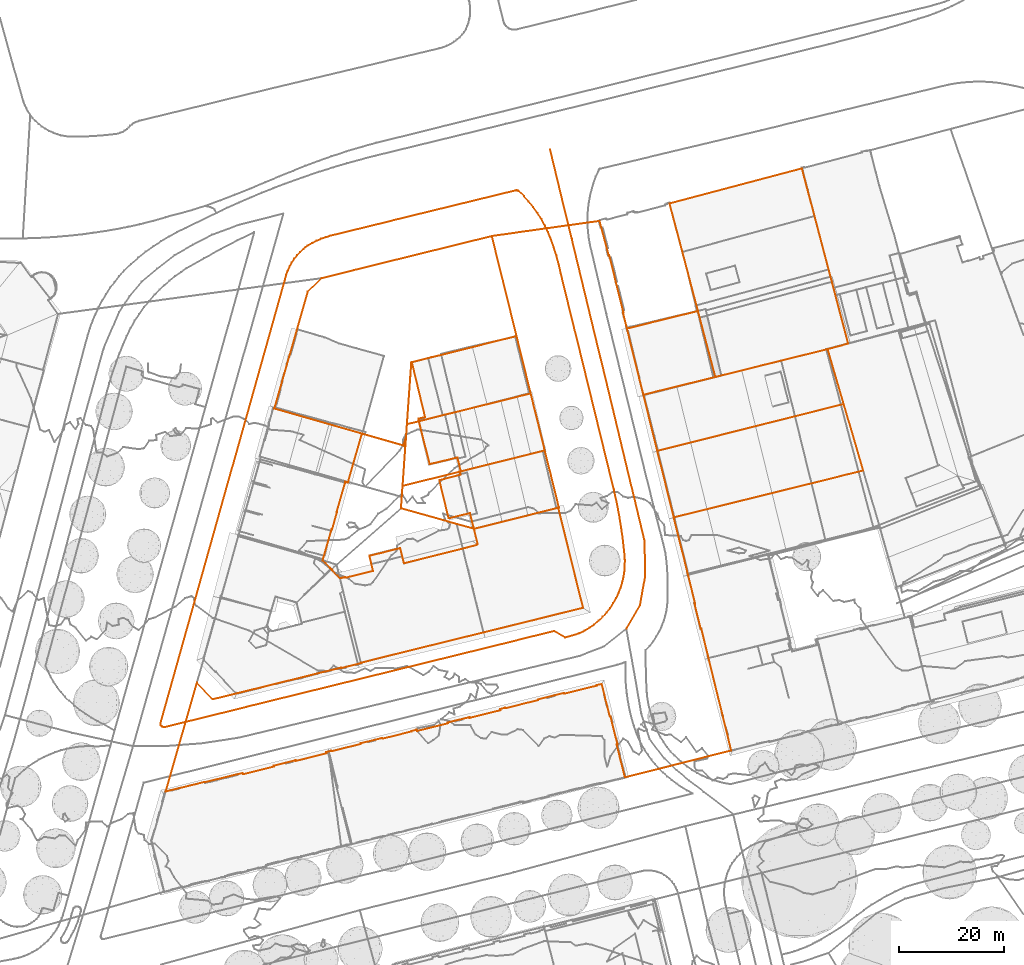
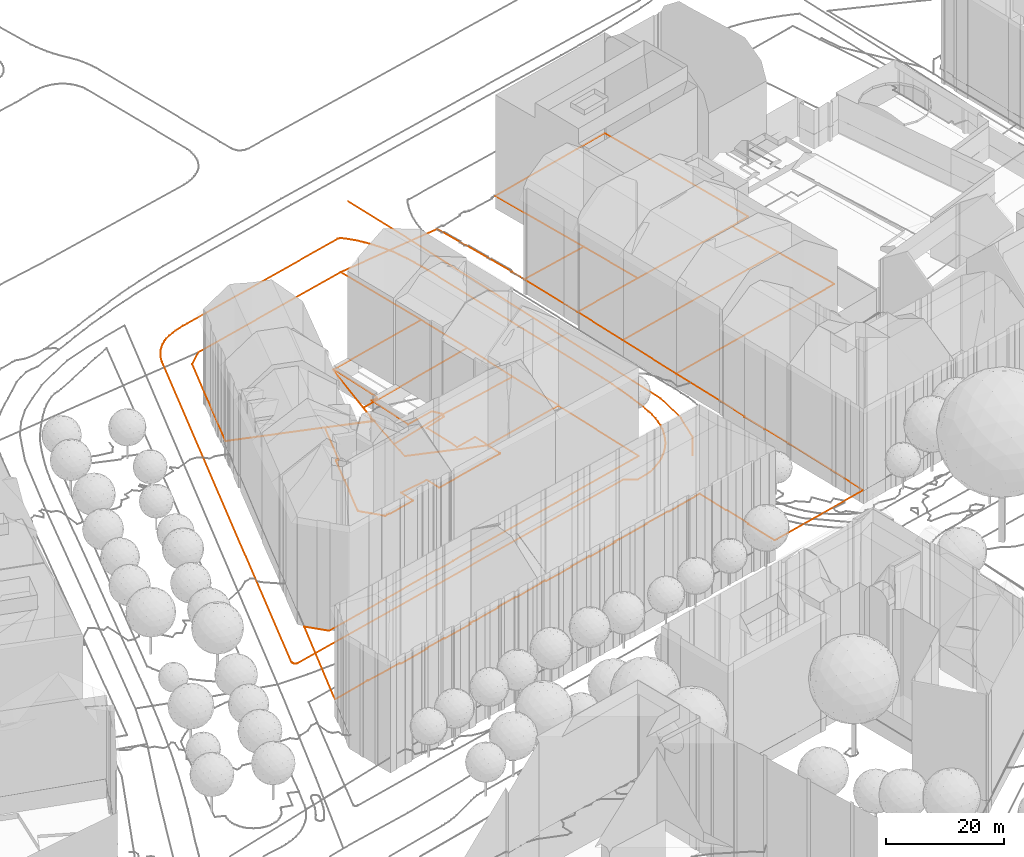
# Not in any storey, part 216 of 494: 12 proxies.
"""IFC2X3 model written with IfcOpenShell, lengths in metres."""

from ifc_helpers import new_model, entity, si_unit, frame, origin_with_axes, place, context, subcontext, project, element, save


model = new_model("IFC2X3")

# Units and contexts
model_context = context("Model", 3, precision=1e-05, world=origin_with_axes())
body_context = subcontext(model_context, "Body", "Model", "MODEL_VIEW")
ifc_project = project(units=[si_unit("AREAUNIT", "SQUARE_METRE"), si_unit("LENGTHUNIT", "METRE")], contexts=[model_context])

# Proxies
proxy_1_placement = place(None, frame((123.7827320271, 468.5747288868, 542.331), z_axis=(0.0, 0.0, 1.0), x_axis=(1.0, 0.0, 0.0)))
element("IfcBuildingElementProxy", 1, at=proxy_1_placement, Name="Road 30", ObjectType="NOTDEFINED", context=body_context, shape_type="GeometricCurveSet", body=[
    entity("IfcGeometricCurveSet", [entity("IfcPolyline", [entity("IfcCartesianPoint", [0.0, 0.0, 0.0]), entity("IfcCartesianPoint", [4.1710000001, -17.2579994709, -0.28]), entity("IfcCartesianPoint", [11.9360000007, -49.3279984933, -1.171]), entity("IfcCartesianPoint", [17.9759999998, -74.4949977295, -1.783]), entity("IfcCartesianPoint", [18.1209999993, -81.1099975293, -1.823]), entity("IfcCartesianPoint", [17.1140000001, -86.7189973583, -1.959]), entity("IfcCartesianPoint", [14.5249999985, -91.1779972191, -2.088])])]),
])
proxy_2_placement = place(None, frame((49.7997320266, 359.2357160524, 539.4158096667), z_axis=(0.0, 0.0, 1.0), x_axis=(1.0, 0.0, 0.0)))
element("IfcBuildingElementProxy", 2, at=proxy_2_placement, Name="Roads Outline 14", ObjectType="NOTDEFINED", context=body_context, shape_type="GeometricCurveSet", body=[
    entity("IfcGeometricCurveSet", [entity("IfcPolyline", [entity("IfcCartesianPoint", [0.0109999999, 0.2150000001, 0.004528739]), entity("IfcCartesianPoint", [23.6499999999, 84.422, 1.9273094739]), entity("IfcCartesianPoint", [23.878, 85.2660000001, 1.9285201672]), entity("IfcCartesianPoint", [24.173, 86.0900000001, 1.9300866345]), entity("IfcCartesianPoint", [24.5330000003, 86.8870000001, 1.9319982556]), entity("IfcCartesianPoint", [24.9550000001, 87.6540000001, 1.9342391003]), entity("IfcCartesianPoint", [25.4360000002, 88.3840000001, 1.9367932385]), entity("IfcCartesianPoint", [25.9590000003, 89.0550000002, 1.9395703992]), entity("IfcCartesianPoint", [26.5320000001, 89.6830000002, 1.9425566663]), entity("IfcCartesianPoint", [27.1520000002, 90.264, 1.9456218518]), entity("IfcCartesianPoint", [27.5460000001, 90.591, 1.9438680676]), entity("IfcCartesianPoint", [27.9550000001, 90.898, 1.9368783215]), entity("IfcCartesianPoint", [28.801, 91.368, 1.9224203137]), entity("IfcCartesianPoint", [29.6699999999, 91.7920000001, 1.9079256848]), entity("IfcCartesianPoint", [30.5610000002, 92.1700000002, 1.8953276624]), entity("IfcCartesianPoint", [31.4470000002, 92.493, 1.8887513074]), entity("IfcCartesianPoint", [32.3480000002, 92.7690000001, 1.8823171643]), entity("IfcCartesianPoint", [33.2630000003, 92.9990000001, 1.8776195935]), entity("IfcCartesianPoint", [67.432, 101.3700000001, 2.2772009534]), entity("IfcCartesianPoint", [67.648, 101.3970000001, 2.2799563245]), entity("IfcCartesianPoint", [67.8620000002, 101.3570000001, 2.2826861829]), entity("IfcCartesianPoint", [68.054, 101.2540000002, 2.2851354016]), entity("IfcCartesianPoint", [69.0360000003, 100.2890000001, 2.2988268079]), entity("IfcCartesianPoint", [69.96, 99.2680000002, 2.3016634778]), entity("IfcCartesianPoint", [70.8229999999, 98.196, 2.2833202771]), entity("IfcCartesianPoint", [71.6230000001, 97.0750000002, 2.2522134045]), entity("IfcCartesianPoint", [72.3560000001, 95.9100000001, 2.2218805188]), entity("IfcCartesianPoint", [73.0210000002, 94.7040000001, 2.2331755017]), entity("IfcCartesianPoint", [73.6150000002, 93.4620000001, 2.2335005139]), entity("IfcCartesianPoint", [74.1359999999, 92.1880000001, 2.2193180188]), entity("IfcCartesianPoint", [74.7080000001, 90.591, 2.2019546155]), entity("IfcCartesianPoint", [75.2170000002, 88.973, 2.1853338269]), entity("IfcCartesianPoint", [75.662, 87.3350000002, 2.2046041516]), entity("IfcCartesianPoint", [76.0410000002, 85.682, 2.2373363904]), entity("IfcCartesianPoint", [86.1310000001, 44.568, 1.5845308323]), entity("IfcCartesianPoint", [86.6690000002, 42.1330000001, 1.5286251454]), entity("IfcCartesianPoint", [87.1400000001, 39.6840000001, 1.4609613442]), entity("IfcCartesianPoint", [87.5430000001, 37.2240000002, 1.419308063]), entity("IfcCartesianPoint", [87.8799999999, 34.753, 1.3903111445]), entity("IfcCartesianPoint", [88.1490000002, 32.274, 1.3155356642]), entity("IfcCartesianPoint", [88.219, 31.1940000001, 1.2984808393]), entity("IfcCartesianPoint", [88.2110000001, 30.112, 1.2609984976]), entity("IfcCartesianPoint", [88.125, 29.0330000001, 1.2420305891]), entity("IfcCartesianPoint", [87.9610000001, 27.963, 1.20619397]), entity("IfcCartesianPoint", [87.719, 26.9080000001, 1.1682767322]), entity("IfcCartesianPoint", [87.4020000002, 25.8740000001, 1.1240185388]), entity("IfcCartesianPoint", [87.0109999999, 24.865, 1.1066851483]), entity("IfcCartesianPoint", [86.5470000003, 23.8870000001, 1.1014115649]), entity("IfcCartesianPoint", [86.014, 22.9450000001, 1.0620086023]), entity("IfcCartesianPoint", [85.4139999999, 22.044, 1.0363683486]), entity("IfcCartesianPoint", [84.75, 21.189, 1.0199783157]), entity("IfcCartesianPoint", [84.0260000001, 20.385, 0.9993887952]), entity("IfcCartesianPoint", [83.2460000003, 19.635, 0.9708468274]), entity("IfcCartesianPoint", [82.4130000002, 18.943, 0.9535556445]), entity("IfcCartesianPoint", [81.5330000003, 18.314, 0.9499864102]), entity("IfcCartesianPoint", [80.6090000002, 17.75, 0.9194578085]), entity("IfcCartesianPoint", [79.6469999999, 17.2550000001, 0.9047099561]), entity("IfcCartesianPoint", [76.889, 16.4500000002, 0.8792115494]), entity("IfcCartesianPoint", [74.8110000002, 17.6710000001, 0.8711376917]), entity("IfcCartesianPoint", [0.7749999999, -0.575, 0.0094330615]), entity("IfcCartesianPoint", [0.5589999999, -0.5789999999, 0.0126848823]), entity("IfcCartesianPoint", [0.3540000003, -0.513, 0.0146756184]), entity("IfcCartesianPoint", [0.1809999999, -0.385, 0.0048476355]), entity("IfcCartesianPoint", [0.0589999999, -0.2079999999, -0.0001135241]), entity("IfcCartesianPoint", [0.0, 0.0, 0.0]), entity("IfcCartesianPoint", [0.0109999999, 0.2150000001, 0.004528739])])]),
])
proxy_3_placement = place(None, frame((80.6047320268, 390.3357160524, 541.0210265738), z_axis=(0.0, 0.0, 1.0), x_axis=(1.0, 0.0, 0.0)))
element("IfcBuildingElementProxy", 3, at=proxy_3_placement, Name="Roads Outline 19", ObjectType="NOTDEFINED", context=body_context, shape_type="GeometricCurveSet", body=[
    entity("IfcGeometricCurveSet", [entity("IfcPolyline", [entity("IfcCartesianPoint", [0.0, 0.0, 0.0]), entity("IfcCartesianPoint", [0.0919999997, 0.3149999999, 0.0234294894]), entity("IfcCartesianPoint", [1.7119999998, 5.8899999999, -0.0944509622]), entity("IfcCartesianPoint", [1.7909999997, 5.8659999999, -0.0926934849]), entity("IfcCartesianPoint", [2.7239999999, 9.1440000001, -0.0938976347]), entity("IfcCartesianPoint", [2.6549999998, 9.1669999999, -0.0944665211]), entity("IfcCartesianPoint", [4.2439999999, 14.669, -0.0691629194]), entity("IfcCartesianPoint", [4.3149999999, 14.916, -0.0662429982]), entity("IfcCartesianPoint", [4.7909999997, 14.781, -0.065429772]), entity("IfcCartesianPoint", [4.8169999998, 14.8729999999, -0.0643417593]), entity("IfcCartesianPoint", [4.8999999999, 15.159, -0.0609492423]), entity("IfcCartesianPoint", [7.3759999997, 23.7490000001, 0.0405602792]), entity("IfcCartesianPoint", [7.46, 24.047, 0.0440834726]), entity("IfcCartesianPoint", [7.5729999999, 24.0160000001, 0.0442891]), entity("IfcCartesianPoint", [14.6859999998, 21.9879999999, -0.0281207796]), entity("IfcCartesianPoint", [15.5800000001, 21.72, -0.088212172]), entity("IfcCartesianPoint", [15.727, 21.6710000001, -0.1000671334]), entity("IfcCartesianPoint", [15.7399999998, 21.8659999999, -0.0962140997]), entity("IfcCartesianPoint", [15.4169999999, 21.976, -0.0701911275]), entity("IfcCartesianPoint", [15.8539999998, 23.548, -0.0906019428]), entity("IfcCartesianPoint", [16.855, 37.5970000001, 0.4316783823]), entity("IfcCartesianPoint", [16.9699999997, 37.6259999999, 0.4330751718]), entity("IfcCartesianPoint", [19.483, 27.2050000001, 0.0943163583]), entity("IfcCartesianPoint", [18.196, 26.888, 0.0672475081]), entity("IfcCartesianPoint", [18.3059999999, 26.4480000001, 0.0524827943]), entity("IfcCartesianPoint", [20.3489999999, 18.2679999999, -0.3280193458]), entity("IfcCartesianPoint", [25.6179999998, 19.5389999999, -0.2677685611]), entity("IfcCartesianPoint", [26.2029999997, 17.1599999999, 0.4872272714]), entity("IfcCartesianPoint", [26.2650000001, 16.898, 0.4766446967]), entity("IfcCartesianPoint", [26.0239999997, 16.831, 0.4786106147]), entity("IfcCartesianPoint", [26.102, 16.5249999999, 0.4659528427]), entity("IfcCartesianPoint", [26.1689999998, 16.26, 0.4539679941]), entity("IfcCartesianPoint", [22.1839999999, 15.2120000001, 0.148201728]), entity("IfcCartesianPoint", [23.9649999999, 7.9820000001, -0.0536375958]), entity("IfcCartesianPoint", [28.0, 8.9639999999, 0.0344842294]), entity("IfcCartesianPoint", [28.6659999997, 6.3119999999, -0.1179561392]), entity("IfcCartesianPoint", [28.7480000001, 5.986, -0.1367166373]), entity("IfcCartesianPoint", [28.8569999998, 5.548, -0.1619057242]), entity("IfcCartesianPoint", [29.2650000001, 3.9129999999, -0.2398368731]), entity("IfcCartesianPoint", [29.4720000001, 3.068, -0.2652740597]), entity("IfcCartesianPoint", [29.264, 3.017, -0.2686244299]), entity("IfcCartesianPoint", [29.2889999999, 2.9169999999, -0.2713098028]), entity("IfcCartesianPoint", [26.6439999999, 2.25, -0.1751718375]), entity("IfcCartesianPoint", [15.4709999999, -0.568, -0.2582261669]), entity("IfcCartesianPoint", [15.2310000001, 0.422, -0.2084124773]), entity("IfcCartesianPoint", [14.7509999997, 2.3030000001, -0.1195572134]), entity("IfcCartesianPoint", [8.8959999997, 0.868, 0.1263028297]), entity("IfcCartesianPoint", [9.5929999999, -2.0120000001, 0.0154550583]), entity("IfcCartesianPoint", [4.3259999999, -3.3189999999, -0.040262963]), entity("IfcCartesianPoint", [4.2799999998, -3.189, -0.0343633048]), entity("IfcCartesianPoint", [3.7909999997, -3.308, -0.0541889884]), entity("IfcCartesianPoint", [3.3089999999, -3.4169999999, -0.0705554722]), entity("IfcCartesianPoint", [2.8539999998, -2.939, -0.051961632]), entity("IfcCartesianPoint", [1.8819999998, -1.9210000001, -0.0234626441]), entity("IfcCartesianPoint", [1.7969999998, -1.8319999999, -0.0215386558]), entity("IfcCartesianPoint", [1.6779999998, -1.7069999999, -0.0188938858]), entity("IfcCartesianPoint", [1.602, -1.6300000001, -0.0177046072]), entity("IfcCartesianPoint", [1.466, -1.4909999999, -0.0164409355]), entity("IfcCartesianPoint", [1.375, -1.398, -0.0157759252]), entity("IfcCartesianPoint", [0.548, -0.558, -0.0126835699]), entity("IfcCartesianPoint", [0.0, 0.0, 0.0])])]),
])
proxy_4_placement = place(None, frame((146.5207320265, 458.1257160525, 541.7712042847), z_axis=(0.0, 0.0, 1.0), x_axis=(1.0, 0.0, 0.0)))
element("IfcBuildingElementProxy", 4, at=proxy_4_placement, Name="Cadastre 0", ObjectType="NOTDEFINED", context=body_context, shape_type="GeometricCurveSet", body=[
    entity("IfcGeometricCurveSet", [entity("IfcPolyline", [entity("IfcCartesianPoint", [0.0, 0.0, 0.0]), entity("IfcCartesianPoint", [25.1370000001, 6.6609999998, 0.1181365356]), entity("IfcCartesianPoint", [33.923, -26.6310000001, 0.040062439]), entity("IfcCartesianPoint", [30.0240000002, -27.675, 0.0537672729]), entity("IfcCartesianPoint", [8.702, -32.952, -0.0061048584]), entity("IfcCartesianPoint", [5.3960000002, -20.4340000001, 0.0253596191]), entity("IfcCartesianPoint", [0.0, 0.0, 0.0])])]),
])
proxy_5_placement = place(None, frame((144.1887320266, 411.1157160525, 541.3797005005), z_axis=(0.0, 0.0, 1.0), x_axis=(1.0, 0.0, 0.0)))
element("IfcBuildingElementProxy", 5, at=proxy_5_placement, Name="Cadastre 62", ObjectType="NOTDEFINED", context=body_context, shape_type="GeometricCurveSet", body=[
    entity("IfcGeometricCurveSet", [entity("IfcPolyline", [entity("IfcCartesianPoint", [0.0, 0.0, 0.0]), entity("IfcCartesianPoint", [35.4080000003, 8.923, 0.323996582]), entity("IfcCartesianPoint", [39.1140000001, -3.7150000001, 0.1322791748]), entity("IfcCartesianPoint", [3.1320000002, -12.628, -0.3554486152]), entity("IfcCartesianPoint", [0.0, 0.0, 0.0])])]),
])
proxy_6_placement = place(None, frame((95.4957320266, 400.2027160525, 541.1708767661), z_axis=(0.0, 0.0, 1.0), x_axis=(1.0, 0.0, 0.0)))
element("IfcBuildingElementProxy", 6, at=proxy_6_placement, Name="Cadastre 64", ObjectType="NOTDEFINED", context=body_context, shape_type="GeometricCurveSet", body=[
    entity("IfcGeometricCurveSet", [entity("IfcPolyline", [entity("IfcCartesianPoint", [0.0, 0.0, 0.0]), entity("IfcCartesianPoint", [0.1529999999, 2.1569999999, -0.1392974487]), entity("IfcCartesianPoint", [0.3020000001, 4.2689999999, -0.2378315]), entity("IfcCartesianPoint", [11.3740000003, 7.031, 0.3267945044]), entity("IfcCartesianPoint", [27.321, 11.0089999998, 0.096302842]), entity("IfcCartesianPoint", [30.0019999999, 0.142, -0.1489787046]), entity("IfcCartesianPoint", [29.8790000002, 0.1109999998, -0.1501682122]), entity("IfcCartesianPoint", [13.8570000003, -3.8810000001, -0.2865668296]), entity("IfcCartesianPoint", [10.6040000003, -2.969, -0.2628146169]), entity("IfcCartesianPoint", [0.0, 0.0, 0.0])])]),
])
proxy_7_placement = place(None, frame((95.7977320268, 404.4717160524, 540.9330452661), z_axis=(0.0, 0.0, 1.0), x_axis=(1.0, 0.0, 0.0)))
element("IfcBuildingElementProxy", 7, at=proxy_7_placement, Name="Cadastre 65", ObjectType="NOTDEFINED", context=body_context, shape_type="GeometricCurveSet", body=[
    entity("IfcGeometricCurveSet", [entity("IfcPolyline", [entity("IfcCartesianPoint", [0.0, 0.0, 0.0]), entity("IfcCartesianPoint", [0.534, 7.5350000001, -0.0120858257]), entity("IfcCartesianPoint", [0.8309999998, 11.7250000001, 0.1215349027]), entity("IfcCartesianPoint", [8.199, 13.5520000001, 0.2553800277]), entity("IfcCartesianPoint", [24.3489999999, 17.557, 0.6488172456]), entity("IfcCartesianPoint", [27.0189999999, 6.74, 0.334134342]), entity("IfcCartesianPoint", [11.0720000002, 2.7620000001, 0.5646260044]), entity("IfcCartesianPoint", [0.0, 0.0, 0.0])])]),
])
proxy_8_placement = place(None, frame((141.5417320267, 421.7857160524, 541.6574147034), z_axis=(0.0, 0.0, 1.0), x_axis=(1.0, 0.0, 0.0)))
element("IfcBuildingElementProxy", 8, at=proxy_8_placement, Name="Cadastre 72", ObjectType="NOTDEFINED", context=body_context, shape_type="GeometricCurveSet", body=[
    entity("IfcGeometricCurveSet", [entity("IfcPolyline", [entity("IfcCartesianPoint", [0.0, 0.0, 0.0]), entity("IfcCartesianPoint", [13.6809999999, 3.388, 0.1076847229]), entity("IfcCartesianPoint", [35.003, 8.665, 0.1675568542]), entity("IfcCartesianPoint", [38.0550000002, -1.747, 0.0462823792]), entity("IfcCartesianPoint", [2.6469999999, -10.6699999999, -0.2777142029]), entity("IfcCartesianPoint", [0.0, 0.0, 0.0])])]),
])
proxy_9_placement = place(None, frame((138.4237320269, 434.3577160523, 541.8464157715), z_axis=(0.0, 0.0, 1.0), x_axis=(1.0, 0.0, 0.0)))
element("IfcBuildingElementProxy", 9, at=proxy_9_placement, Name="Cadastre 73", ObjectType="NOTDEFINED", context=body_context, shape_type="GeometricCurveSet", body=[
    entity("IfcGeometricCurveSet", [entity("IfcPolyline", [entity("IfcCartesianPoint", [0.0, 0.0, 0.0]), entity("IfcCartesianPoint", [13.4929999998, 3.334, -0.0498518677]), entity("IfcCartesianPoint", [16.7989999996, -9.1839999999, -0.0813163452]), entity("IfcCartesianPoint", [3.1179999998, -12.5719999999, -0.1890010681]), entity("IfcCartesianPoint", [0.0, 0.0, 0.0])])]),
])
proxy_10_placement = place(None, frame((96.6287320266, 416.1967160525, 541.0545801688), z_axis=(0.0, 0.0, 1.0), x_axis=(1.0, 0.0, 0.0)))
element("IfcBuildingElementProxy", 10, at=proxy_10_placement, Name="Cadastre 74", ObjectType="NOTDEFINED", context=body_context, shape_type="GeometricCurveSet", body=[
    entity("IfcGeometricCurveSet", [entity("IfcPolyline", [entity("IfcCartesianPoint", [0.0, 0.0, 0.0]), entity("IfcCartesianPoint", [0.8310000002, 11.736, 0.3981247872]), entity("IfcCartesianPoint", [4.6970000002, 12.702, 0.4450812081]), entity("IfcCartesianPoint", [20.8290000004, 16.7309999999, 0.6413133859]), entity("IfcCartesianPoint", [23.5180000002, 5.8319999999, 0.5272823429]), entity("IfcCartesianPoint", [7.3680000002, 1.827, 0.1338451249]), entity("IfcCartesianPoint", [0.0, 0.0, 0.0])])]),
])
proxy_11_placement = place(None, frame((50.7997320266, 346.4397160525, 539.2906210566), z_axis=(0.0, 0.0, 1.0), x_axis=(1.0, 0.0, 0.0)))
element("IfcBuildingElementProxy", 11, at=proxy_11_placement, Name="Cadastre 77", ObjectType="NOTDEFINED", context=body_context, shape_type="GeometricCurveSet", body=[
    entity("IfcGeometricCurveSet", [entity("IfcPolyline", [entity("IfcCartesianPoint", [0.0, 0.0, 0.0]), entity("IfcCartesianPoint", [5.923, 20.6359999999, 0.3986439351]), entity("IfcCartesianPoint", [8.946, 17.4989999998, 0.3742888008]), entity("IfcCartesianPoint", [33.2910000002, 23.5149999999, 0.7271280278]), entity("IfcCartesianPoint", [33.3130000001, 23.4239999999, 0.7228599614]), entity("IfcCartesianPoint", [37.0980000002, 24.3589999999, 0.7490305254]), entity("IfcCartesianPoint", [37.0750000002, 24.45, 0.7556318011]), entity("IfcCartesianPoint", [60.3850000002, 30.2109999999, 0.9865524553]), entity("IfcCartesianPoint", [79.2910000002, 34.8829999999, 1.2224057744]), entity("IfcCartesianPoint", [74.5750000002, 53.8739999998, 1.7300874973]), entity("IfcCartesianPoint", [74.6979999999, 53.905, 1.7312770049]), entity("IfcCartesianPoint", [72.017, 64.7719999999, 1.9765585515]), entity("IfcCartesianPoint", [69.3470000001, 75.5889999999, 2.2912414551]), entity("IfcCartesianPoint", [66.6580000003, 86.4879999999, 2.4052724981]), entity("IfcCartesianPoint", [61.9649999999, 105.5009999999, 2.3480394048]), entity("IfcCartesianPoint", [82.4250000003, 108.3639999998, 2.3395095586]), entity("IfcCartesianPoint", [84.1710000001, 101.8199999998, 2.3528180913]), entity("IfcCartesianPoint", [84.2630000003, 101.8329999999, 2.3544970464]), entity("IfcCartesianPoint", [86.9760000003, 90.9099999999, 2.5294667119]), entity("IfcCartesianPoint", [86.8880000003, 90.888, 2.5260238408]), entity("IfcCartesianPoint", [87.6240000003, 87.9179999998, 2.5557947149]), entity("IfcCartesianPoint", [90.7420000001, 75.3459999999, 2.3667936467]), entity("IfcCartesianPoint", [93.389, 64.676, 2.0890794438]), entity("IfcCartesianPoint", [96.5210000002, 52.048, 1.7336308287]), entity("IfcCartesianPoint", [99.1750000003, 41.344, 1.531150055]), entity("IfcCartesianPoint", [100.571, 35.7239999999, 1.3486134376]), entity("IfcCartesianPoint", [100.4649999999, 35.6979999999, 1.3462667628]), entity("IfcCartesianPoint", [101.628, 30.9549999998, 1.2950264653]), entity("IfcCartesianPoint", [101.7349999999, 30.9809999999, 1.2977951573]), entity("IfcCartesianPoint", [103.1200000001, 25.3369999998, 1.1972931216]), entity("IfcCartesianPoint", [107.4309999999, 7.764, 0.780871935]), entity("IfcCartesianPoint", [87.2250000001, 2.6949999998, 0.5953655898]), entity("IfcCartesianPoint", [85.679, 8.9299999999, 0.6887766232]), entity("IfcCartesianPoint", [85.8149999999, 8.9639999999, 0.6866554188]), entity("IfcCartesianPoint", [84.5130000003, 14.2179999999, 0.8061608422]), entity("IfcCartesianPoint", [84.3769999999, 14.1849999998, 0.8051193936]), entity("IfcCartesianPoint", [82.8319999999, 20.425, 0.9673656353]), entity("IfcCartesianPoint", [81.8760000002, 20.193, 0.9714887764]), entity("IfcCartesianPoint", [81.8969999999, 20.105, 0.97062123]), entity("IfcCartesianPoint", [75.6850000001, 18.5619999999, 0.8892017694]), entity("IfcCartesianPoint", [75.6490000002, 18.7079999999, 0.8961965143]), entity("IfcCartesianPoint", [70.7280000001, 17.49, 0.8665392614]), entity("IfcCartesianPoint", [70.764, 17.344, 0.8629895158]), entity("IfcCartesianPoint", [64.5330000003, 15.8089999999, 0.7692548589]), entity("IfcCartesianPoint", [64.5120000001, 15.8959999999, 0.7705539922]), entity("IfcCartesianPoint", [63.5530000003, 15.662, 0.7748808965]), entity("IfcCartesianPoint", [63.6099999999, 15.429, 0.771399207]), entity("IfcCartesianPoint", [57.7409999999, 13.9679999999, 0.7424991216]), entity("IfcCartesianPoint", [57.7050000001, 14.1139999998, 0.744254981]), entity("IfcCartesianPoint", [53.5759999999, 13.0929999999, 0.6908069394]), entity("IfcCartesianPoint", [53.6120000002, 12.9469999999, 0.6878311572]), entity("IfcCartesianPoint", [47.7370000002, 11.49, 0.7083365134]), entity("IfcCartesianPoint", [47.6809999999, 11.723, 0.7146233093]), entity("IfcCartesianPoint", [46.719, 11.4909999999, 0.6730186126]), entity("IfcCartesianPoint", [46.7379999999, 11.4129999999, 0.6711991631]), entity("IfcCartesianPoint", [41.1850000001, 10.0179999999, 0.5430471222]), entity("IfcCartesianPoint", [41.1490000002, 10.1639999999, 0.5452203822]), entity("IfcCartesianPoint", [37.0100000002, 9.1469999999, 0.5085427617]), entity("IfcCartesianPoint", [37.0460000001, 9.0009999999, 0.5061368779]), entity("IfcCartesianPoint", [31.4820000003, 7.6429999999, 0.4207475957]), entity("IfcCartesianPoint", [31.463, 7.7219999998, 0.4220663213]), entity("IfcCartesianPoint", [30.8149999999, 7.5599999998, 0.4304313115]), entity("IfcCartesianPoint", [30.5040000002, 7.4839999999, 0.4344684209]), entity("IfcCartesianPoint", [30.5649999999, 7.2409999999, 0.4303708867]), entity("IfcCartesianPoint", [24.6920000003, 5.774, 0.3840094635]), entity("IfcCartesianPoint", [24.6550000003, 5.919, 0.3863811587]), entity("IfcCartesianPoint", [20.5180000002, 4.8799999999, 0.3148573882]), entity("IfcCartesianPoint", [20.5550000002, 4.7349999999, 0.3114067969]), entity("IfcCartesianPoint", [14.6809999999, 3.2679999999, 0.2008129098]), entity("IfcCartesianPoint", [14.6240000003, 3.5009999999, 0.2053948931]), entity("IfcCartesianPoint", [7.4399999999, 1.7479999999, 0.2296206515]), entity("IfcCartesianPoint", [7.426, 1.8059999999, 0.2308575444]), entity("IfcCartesianPoint", [0.0, 0.0, 0.0])])]),
])
proxy_12_placement = place(None, frame((71.4357320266, 419.1657160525, 541.1828141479), z_axis=(0.0, 0.0, 1.0), x_axis=(1.0, 0.0, 0.0)))
element("IfcBuildingElementProxy", 12, at=proxy_12_placement, Name="Cadastre 78", ObjectType="NOTDEFINED", context=body_context, shape_type="GeometricCurveSet", body=[
    entity("IfcGeometricCurveSet", [entity("IfcPolyline", [entity("IfcCartesianPoint", [0.0, 0.0, 0.0]), entity("IfcCartesianPoint", [6.355, 22.2069999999, 0.169258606]), entity("IfcCartesianPoint", [8.9500000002, 24.7559999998, 0.1281370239]), entity("IfcCartesianPoint", [41.3289999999, 32.7749999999, 0.4558463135]), entity("IfcCartesianPoint", [46.0220000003, 13.7619999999, 0.5130794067]), entity("IfcCartesianPoint", [29.8900000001, 9.733, 0.316847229]), entity("IfcCartesianPoint", [26.0240000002, 8.767, 0.2698908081]), entity("IfcCartesianPoint", [25.193, -2.969, -0.1282339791]), entity("IfcCartesianPoint", [24.8960000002, -7.159, -0.2618547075]), entity("IfcCartesianPoint", [16.7420000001, -4.814, -0.1174984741]), entity("IfcCartesianPoint", [0.0, 0.0, 0.0])])]),
])

save(model, "model.ifc")
